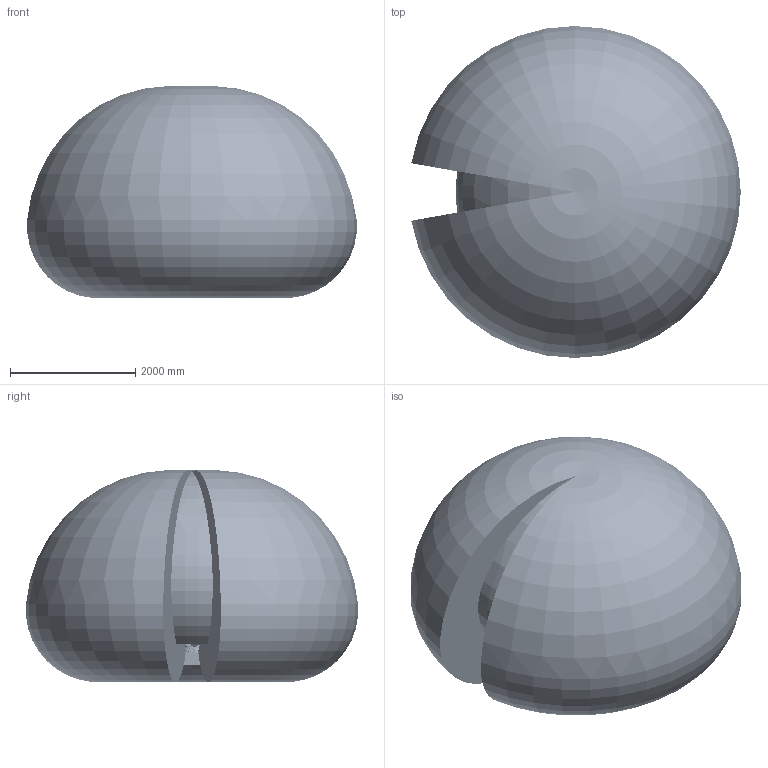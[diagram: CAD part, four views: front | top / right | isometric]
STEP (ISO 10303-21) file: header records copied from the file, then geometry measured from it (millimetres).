
FILE_DESCRIPTION (( 'STEP AP214' ), '1' );
FILE_NAME ('IRB6720-LID-MH_215kg-265_OC_01_ASM_CAD.step', '2026-05-26T07:41:01', ( '' ), ( '' ), 'SwSTEP 2.0', 'SolidWorks 2024', '' );
FILE_SCHEMA (( 'AUTOMOTIVE_DESIGN' ));
Length unit declared in the file: millimetre
Products named in the file (20): IRB6720-LID_215kg-265_OC_00_LINK01_CAD; IRB6720-LID-MH_215kg-265_OC_00_LINK03a_CABLE; IRB6720-LID_215kg-265_OC_00_BASE_CAD; IRB6720-LID_215kg-265_OC_00_LINK05_CABLE; IRB6720-LID_215kg-265_OC_00_LINK01m_CABLE; IRB6720-LID_215kg-265_OC_00_LINK03_CAD; IRB6720-LID_215kg-265_OC_00_LINK06_CABLE; IRB6720-LID_215kg-265_OC_00_LINK04_CAD; IRB6720-LID-MH_215kg-265_OC_00_LINK03b_CABLE; IRB6720-LID_215kg-265_OC_00_LINK02m_CABLE; IRB6720-LID_215kg-265_OC_00_CYL_CAD; IRB6720-LID_215kg-265_OC_01_LINK05_CAD; IRB6720-LID-MH_215kg-265_OC_00_LINK01_CABLE; IRB6720-LID_215kg-265_OC_00_LINK03m_CABLE; IRB6720-LID-MH_215kg-265_OC_01_ASM_CAD; IRB6720-LID_215kg-265_OC_00_ROD_CAD; IRB6720-LID-MH_215kg-265_OC_00_LINK02_CABLE; IRB6720-LID_215kg-265_OC_00_Working-space; IRB6720-LID_215kg-265_OC_00_LINK04_CABLE; IRB6720-LID_215kg-265_OC_00_LINK02_CAD
Assembly tree (19 placements, depth 2):
  IRB6720-LID-MH_215kg-265_OC_01_ASM_CAD
    IRB6720-LID_215kg-265_OC_00_BASE_CAD
    IRB6720-LID_215kg-265_OC_00_CYL_CAD
    IRB6720-LID_215kg-265_OC_00_LINK01_CAD
    IRB6720-LID_215kg-265_OC_00_LINK02_CAD
    IRB6720-LID_215kg-265_OC_00_LINK03_CAD
    IRB6720-LID_215kg-265_OC_00_ROD_CAD
    IRB6720-LID_215kg-265_OC_00_LINK04_CAD
    IRB6720-LID_215kg-265_OC_01_LINK05_CAD
    IRB6720-LID_215kg-265_OC_00_LINK01m_CABLE
    IRB6720-LID_215kg-265_OC_00_LINK02m_CABLE
    IRB6720-LID_215kg-265_OC_00_LINK03m_CABLE
    IRB6720-LID-MH_215kg-265_OC_00_LINK01_CABLE
    IRB6720-LID-MH_215kg-265_OC_00_LINK02_CABLE
    IRB6720-LID-MH_215kg-265_OC_00_LINK03a_CABLE
    IRB6720-LID-MH_215kg-265_OC_00_LINK03b_CABLE
    IRB6720-LID_215kg-265_OC_00_LINK04_CABLE
    IRB6720-LID_215kg-265_OC_00_LINK05_CABLE
    IRB6720-LID_215kg-265_OC_00_LINK06_CABLE
    IRB6720-LID_215kg-265_OC_00_Working-space
Bounding box: 5252.08 x 5292.28 x 3376.7 mm (x, y, z)
Volume: 49295379108.1 mm3; surface area: 103170234.5 mm2
Topology: 21 solids, 38 shells, 9475 faces, 24149 edges, 15351 vertices
Faces by surface type: plane 4339, cylinder 2504, cone 1334, bspline 833, torus 414, sphere 51
Entity records: 745566 total; most frequent: CARTESIAN_POINT 423423, ORIENTED_EDGE 47954, DIRECTION 43055, EDGE_CURVE 23977, AXIS2_PLACEMENT_3D 15827, VERTEX_POINT 15349, LINE 11401, VECTOR 11401
